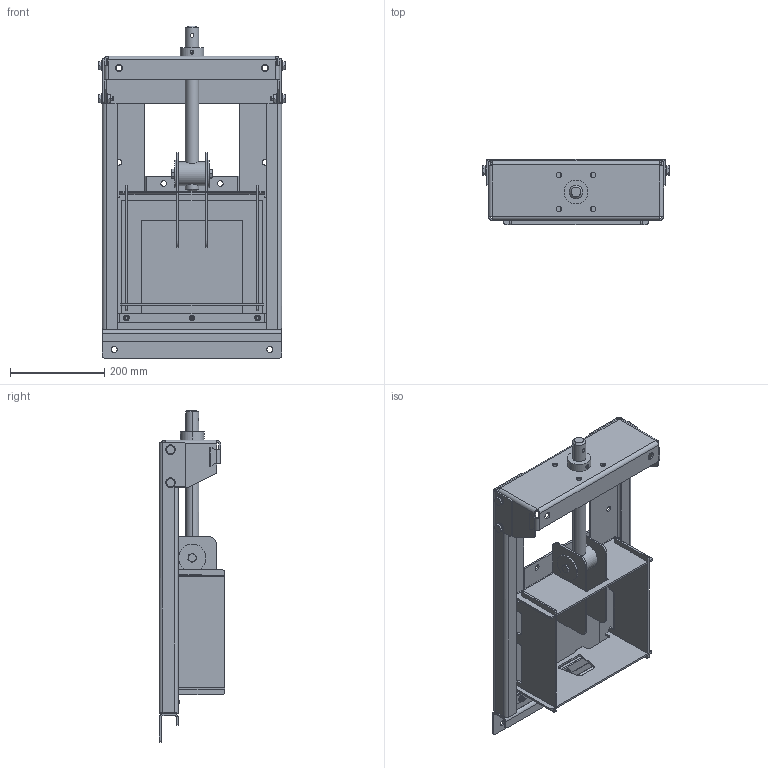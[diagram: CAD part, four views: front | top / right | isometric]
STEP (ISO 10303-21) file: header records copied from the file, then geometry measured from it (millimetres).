
FILE_DESCRIPTION (( 'STEP AP214' ), '1' );
FILE_NAME ('VGM620X-00EP0200.STEP', '2020-04-09T16:02:34', ( '' ), ( '' ), 'SwSTEP 2.0', 'SolidWorks 2017', '' );
FILE_SCHEMA (( 'AUTOMOTIVE_DESIGN' ));
Length unit declared in the file: millimetre
Products named in the file (1): VGM620X-00EP0200
Bounding box: 396.8 x 139 x 704 mm (x, y, z)
Volume: 3487476.2 mm3; surface area: 1588586.9 mm2
Topology: 63 solids, 63 shells, 1623 faces, 4189 edges, 2704 vertices
Faces by surface type: plane 789, cylinder 606, cone 198, bspline 30
Entity records: 71088 total; most frequent: CARTESIAN_POINT 12167, DIRECTION 8451, ORIENTED_EDGE 8362, EDGE_CURVE 4181, AXIS2_PLACEMENT_3D 2966, VERTEX_POINT 2704, VECTOR 2519, LINE 2519
